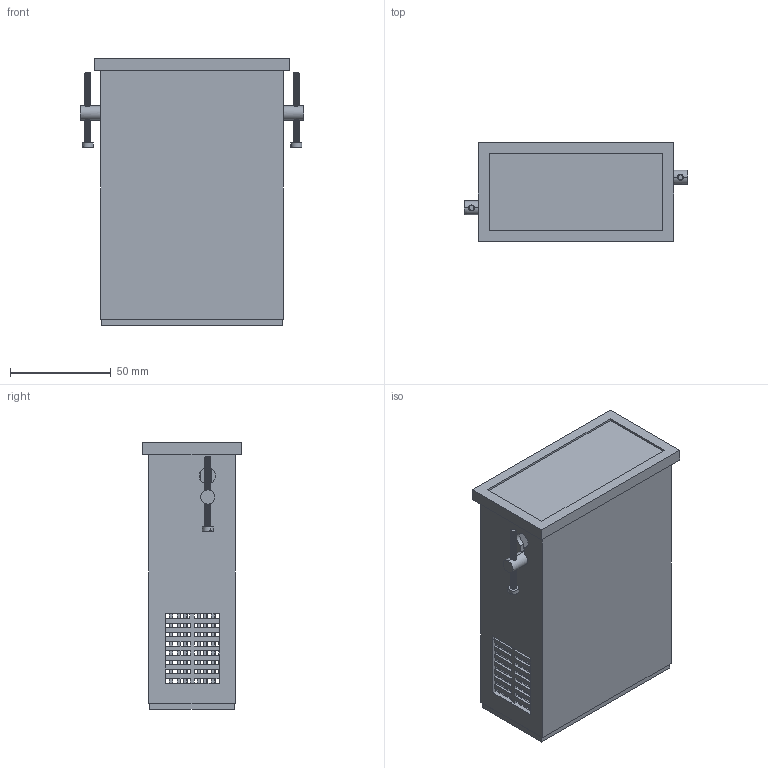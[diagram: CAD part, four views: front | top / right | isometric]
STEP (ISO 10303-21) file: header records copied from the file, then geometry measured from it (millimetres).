
FILE_DESCRIPTION (( 'STEP AP214' ), '1' );
FILE_NAME ('Conjunt PP11.STEP', '2017-08-10T08:28:11', ( 'aaa' ), ( '' ), 'SwSTEP 2.0', 'SolidWorks 2013', '' );
FILE_SCHEMA (( 'AUTOMOTIVE_DESIGN' ));
Length unit declared in the file: millimetre
Products named in the file (8): Cargol 2,2x13 PP11; Cargol Metric PP11; Distanciador PP11; Tapa negre PP11; Marc negre PP11; Plastic transparent PP11; Caixa negre PP11; Conjunt PP11
Assembly tree (12 placements, depth 2):
  Conjunt PP11
    Caixa negre PP11
    Plastic transparent PP11
    Marc negre PP11
    Tapa negre PP11
    Distanciador PP11  x2
    Cargol Metric PP11  x2
    Cargol 2,2x13 PP11  x4
Bounding box: 111.2 x 49 x 132.5 mm (x, y, z)
Volume: 119905.8 mm3; surface area: 100046.9 mm2
Topology: 12 solids, 12 shells, 2136 faces, 5058 edges, 2720 vertices
Faces by surface type: cone 1536, plane 510, cylinder 90
Entity records: 35361 total; most frequent: DIRECTION 6148, ORIENTED_EDGE 6104, CARTESIAN_POINT 6015, EDGE_CURVE 3052, LINE 2280, VECTOR 2280, AXIS2_PLACEMENT_3D 1934, VERTEX_POINT 1693
